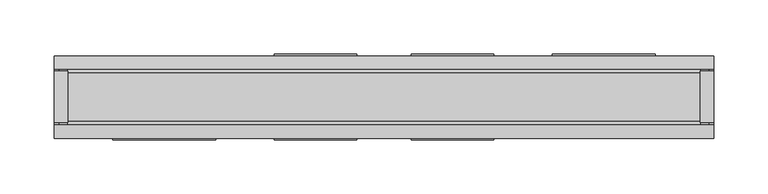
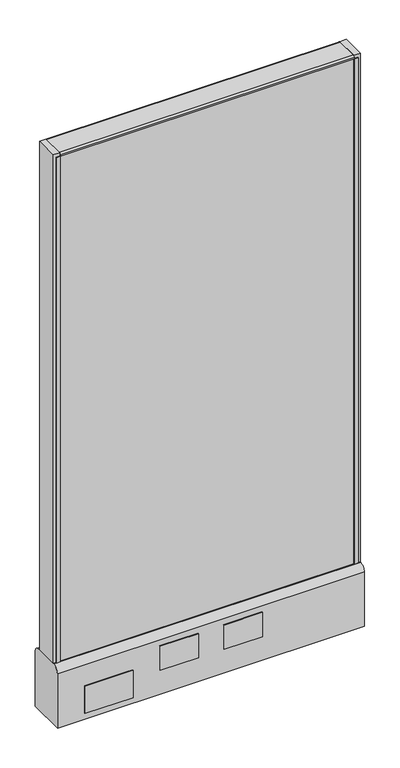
"""IFC4 building model written with IfcOpenShell, lengths in millimetres: furniture geometry."""

from ifc_helpers import new_model, si_unit, point, frame, frame_2d, origin, place, context, project, spatial, polyline, circle_curve, trimmed, segment, composite_curve, outline, extrude, source, transform, mapped, element, save
from ifc_brep_helpers import plane_surface, cylinder_surface, advanced_brep


def furniture_aedcea9c(model_context):
    return source(origin(), model_context, "Body", "SolidModel", [
        extrude(outline(polyline([(-101.6, 39.6875), (-25.4, 39.6875), (-25.4, 38.1), (-101.6, 38.1), (-101.6, 39.6875)])), frame((0.0, 0.0, 60.325), z_axis=(0.0, 0.0, 1.0), x_axis=(1.0, 0.0, 0.0)), (0.0, 0.0, 1.0), 50.8),
        extrude(outline(polyline([(25.4, 39.6875), (101.6, 39.6875), (101.6, 38.1), (25.4, 38.1), (25.4, 39.6875)])), frame((0.0, 0.0, 60.325), z_axis=(0.0, 0.0, 1.0), x_axis=(1.0, 0.0, 0.0)), (0.0, 0.0, 1.0), 50.8),
        extrude(outline(polyline([(-101.6, -38.1), (-25.4, -38.1), (-25.4, -39.6875), (-101.6, -39.6875), (-101.6, -38.1)])), frame((0.0, 0.0, 60.325), z_axis=(0.0, 0.0, 1.0), x_axis=(1.0, 0.0, 0.0)), (0.0, 0.0, 1.0), 50.8),
        extrude(outline(polyline([(25.4, -38.1), (101.6, -38.1), (101.6, -39.6875), (25.4, -39.6875), (25.4, -38.1)])), frame((0.0, 0.0, 60.325), z_axis=(0.0, 0.0, 1.0), x_axis=(1.0, 0.0, 0.0)), (0.0, 0.0, 1.0), 50.8),
        extrude(outline(polyline([(250.825, 38.1), (155.575, 38.1), (155.575, 39.6875), (250.825, 39.6875), (250.825, 38.1)])), frame((0.0, 0.0, 22.225), z_axis=(0.0, 0.0, 1.0), x_axis=(1.0, 0.0, 0.0)), (0.0, 0.0, 1.0), 57.15),
        extrude(outline(polyline([(-155.575, -39.6875), (-250.825, -39.6875), (-250.825, -38.1), (-155.575, -38.1), (-155.575, -39.6875)])), frame((0.0, 0.0, 22.225), z_axis=(0.0, 0.0, 1.0), x_axis=(1.0, 0.0, 0.0)), (0.0, 0.0, 1.0), 57.15),
        advanced_brep(
        [(247.65, 0.0, 0.0), (273.05, 0.0, 0.0), (260.35, 0.0, 0.0), (247.65, 0.0, 4.7625), (273.05, 0.0, 4.7625), (254.0, 0.0, 4.7625), (266.7, 0.0, 4.7625), (254.0, 0.0, 111.125), (266.7, 0.0, 111.125), (260.35, 0.0, 111.125)],
        [
            (0, 1, circle_curve(frame((260.35, 0.0, 0.0), z_axis=(0.0, 0.0, -1.0), x_axis=(1.0, 0.0, 0.0)), 12.7)),
            (1, 2),
            (2, 0),
            (1, 0, circle_curve(frame((260.35, 0.0, 0.0), z_axis=(0.0, 0.0, -1.0), x_axis=(1.0, 0.0, 0.0)), 12.7)),
            (3, 4, circle_curve(frame((260.35, 0.0, 4.7625), z_axis=(0.0, 0.0, -1.0), x_axis=(1.0, 0.0, 0.0)), 12.7)),
            (4, 1),
            (0, 3),
            (4, 3, circle_curve(frame((260.35, 0.0, 4.7625), z_axis=(0.0, 0.0, -1.0), x_axis=(1.0, 0.0, 0.0)), 12.7)),
            (5, 6, circle_curve(frame((260.35, 0.0, 4.7625), z_axis=(0.0, 0.0, -1.0), x_axis=(1.0, 0.0, 0.0)), 6.35)),
            (6, 4),
            (3, 5),
            (6, 5, circle_curve(frame((260.35, 0.0, 4.7625), z_axis=(0.0, 0.0, -1.0), x_axis=(1.0, 0.0, 0.0)), 6.35)),
            (7, 8, circle_curve(frame((260.35, 0.0, 111.125), z_axis=(0.0, 0.0, -1.0), x_axis=(1.0, 0.0, 0.0)), 6.35)),
            (8, 6),
            (5, 7),
            (8, 7, circle_curve(frame((260.35, 0.0, 111.125), z_axis=(0.0, 0.0, -1.0), x_axis=(1.0, 0.0, 0.0)), 6.35)),
            (9, 8),
            (7, 9),
        ],
        [
            plane_surface(frame((260.35, 0.0, 0.0), z_axis=(0.0, 0.0, -1.0), x_axis=(1.0, 0.0, 0.0))),
            cylinder_surface(frame((260.35, 0.0, 114.882153), z_axis=(0.0, 0.0, 1.0), x_axis=(1.0, 0.0, 0.0)), 12.7),
            plane_surface(frame((260.35, 0.0, 4.7625), z_axis=(0.0, 0.0, 1.0), x_axis=(1.0, 0.0, 0.0))),
            cylinder_surface(frame((260.35, 0.0, 114.882153), z_axis=(0.0, 0.0, 1.0), x_axis=(1.0, 0.0, 0.0)), 6.35),
            plane_surface(frame((260.35, 0.0, 111.125), z_axis=(0.0, 0.0, 1.0), x_axis=(1.0, 0.0, 0.0))),
        ],
        [
            (0, [[1, 2, 3]]),
            (0, [[4, -3, -2]]),
            (1, [[5, 6, -1, 7]]),
            (1, [[8, -7, -4, -6]]),
            (2, [[9, 10, -5, 11]]),
            (2, [[12, -11, -8, -10]]),
            (3, [[13, 14, -9, 15]]),
            (3, [[16, -15, -12, -14]]),
            (4, [[17, -13, 18]]),
            (4, [[-18, -16, -17]]),
        ],
    ),
        advanced_brep(
        [(-273.05, 0.0, 4.7625), (-247.65, 0.0, 4.7625), (-247.65, 0.0, 0.0), (-273.05, 0.0, 0.0), (-266.7, 0.0, 4.7625), (-254.0, 0.0, 4.7625), (-266.7, 0.0, 111.125), (-254.0, 0.0, 111.125), (-260.35, 0.0, 111.125), (-260.35, 0.0, 0.0)],
        [
            (0, 1, circle_curve(frame((-260.35, 0.0, 4.7625), z_axis=(0.0, 0.0, -1.0), x_axis=(1.0, 0.0, 0.0)), 12.7)),
            (1, 2),
            (2, 3, circle_curve(frame((-260.35, 0.0, 0.0), z_axis=(0.0, 0.0, 1.0), x_axis=(1.0, 0.0, 0.0)), 12.7)),
            (3, 0),
            (1, 0, circle_curve(frame((-260.35, 0.0, 4.7625), z_axis=(0.0, 0.0, -1.0), x_axis=(1.0, 0.0, 0.0)), 12.7)),
            (3, 2, circle_curve(frame((-260.35, 0.0, 0.0), z_axis=(0.0, 0.0, 1.0), x_axis=(1.0, 0.0, 0.0)), 12.7)),
            (4, 5, circle_curve(frame((-260.35, 0.0, 4.7625), z_axis=(0.0, 0.0, -1.0), x_axis=(1.0, 0.0, 0.0)), 6.35)),
            (5, 1),
            (0, 4),
            (5, 4, circle_curve(frame((-260.35, 0.0, 4.7625), z_axis=(0.0, 0.0, -1.0), x_axis=(1.0, 0.0, 0.0)), 6.35)),
            (6, 7, circle_curve(frame((-260.35, 0.0, 111.125), z_axis=(0.0, 0.0, -1.0), x_axis=(1.0, 0.0, 0.0)), 6.35)),
            (7, 5),
            (4, 6),
            (7, 6, circle_curve(frame((-260.35, 0.0, 111.125), z_axis=(0.0, 0.0, -1.0), x_axis=(1.0, 0.0, 0.0)), 6.35)),
            (8, 7),
            (6, 8),
            (2, 9),
            (9, 3),
        ],
        [
            cylinder_surface(frame((-260.35, 0.0, 123.825), z_axis=(0.0, 0.0, 1.0), x_axis=(1.0, 0.0, 0.0)), 12.7),
            plane_surface(frame((-260.35, 0.0, 4.7625), z_axis=(0.0, 0.0, 1.0), x_axis=(1.0, 0.0, 0.0))),
            cylinder_surface(frame((-260.35, 0.0, 123.825), z_axis=(0.0, 0.0, 1.0), x_axis=(1.0, 0.0, 0.0)), 6.35),
            plane_surface(frame((-260.35, 0.0, 111.125), z_axis=(0.0, 0.0, 1.0), x_axis=(1.0, 0.0, 0.0))),
            plane_surface(frame((-260.35, 0.0, 0.0), z_axis=(0.0, 0.0, -1.0), x_axis=(1.0, 0.0, 0.0))),
        ],
        [
            (0, [[1, 2, 3, 4]]),
            (0, [[5, -4, 6, -2]]),
            (1, [[7, 8, -1, 9]]),
            (1, [[10, -9, -5, -8]]),
            (2, [[11, 12, -7, 13]]),
            (2, [[14, -13, -10, -12]]),
            (3, [[15, -11, 16]]),
            (3, [[-16, -14, -15]]),
            (4, [[-3, 17, 18]]),
            (4, [[-6, -18, -17]]),
        ],
    ),
        extrude(outline(polyline([(-304.8, 23.8125), (-292.1, 23.8125), (-292.1, -23.8125), (-304.8, -23.8125), (-304.8, 23.8125)])), frame((0.0, 0.0, 136.525), z_axis=(0.0, 0.0, 1.0), x_axis=(1.0, 0.0, 0.0)), (0.0, 0.0, 1.0), 1066.8),
        extrude(outline(polyline([(292.1, -23.8125), (292.1, 23.8125), (304.8, 23.8125), (304.8, -23.8125), (292.1, -23.8125)])), frame((0.0, 0.0, 136.525), z_axis=(0.0, 0.0, 1.0), x_axis=(1.0, 0.0, 0.0)), (0.0, 0.0, 1.0), 1066.8),
        extrude(outline(polyline([(-292.1, 25.4), (-292.1, 23.8125), (-300.0375, 23.8125), (-300.0375, 25.4), (-292.1, 25.4)])), frame((0.0, 0.0, 136.525), z_axis=(0.0, 0.0, 1.0), x_axis=(1.0, 0.0, 0.0)), (0.0, 0.0, 1.0), 1060.45),
        extrude(outline(polyline([(-292.1, -25.4), (-300.0375, -25.4), (-300.0375, -23.8125), (-292.1, -23.8125), (-292.1, -25.4)])), frame((0.0, 0.0, 136.525), z_axis=(0.0, 0.0, 1.0), x_axis=(1.0, 0.0, 0.0)), (0.0, 0.0, 1.0), 1060.45),
        extrude(outline(polyline([(300.0375, 23.8125), (292.1, 23.8125), (292.1, 25.4), (300.0375, 25.4), (300.0375, 23.8125)])), frame((0.0, 0.0, 136.525), z_axis=(0.0, 0.0, 1.0), x_axis=(1.0, 0.0, 0.0)), (0.0, 0.0, 1.0), 1060.45),
        extrude(outline(polyline([(292.1, -25.4), (292.1, -23.8125), (300.0375, -23.8125), (300.0375, -25.4), (292.1, -25.4)])), frame((0.0, 0.0, 136.525), z_axis=(0.0, 0.0, 1.0), x_axis=(1.0, 0.0, 0.0)), (0.0, 0.0, 1.0), 1060.45),
        extrude(outline(composite_curve([segment(trimmed(circle_curve(frame_2d((22.225, 1200.15)), 3.175), [point((22.225, 1203.325))], [point((25.4, 1200.15))], False, "CARTESIAN"), True, "CONTINUOUS"), segment(polyline([(25.4, 1200.15), (25.4, 1196.975), (-25.4, 1196.975), (-25.4, 1200.15)]), True, "CONTINUOUS"), segment(trimmed(circle_curve(frame_2d((-22.225, 1200.15)), 3.175), [point((-25.4, 1200.15))], [point((-22.225, 1203.325))], False, "CARTESIAN"), True, "CONTINUOUS"), segment(polyline([(-22.225, 1203.325), (22.225, 1203.325)]), True, "CONTINUOUS")], self_intersect=False)), frame((-292.1, 0.0, 0.0), z_axis=(1.0, 0.0, 0.0), x_axis=(0.0, 1.0, 0.0)), (0.0, 0.0, 1.0), 584.2),
        extrude(outline(composite_curve([segment(trimmed(circle_curve(frame_2d((25.4, 123.825)), 12.7), [point((25.4, 136.525))], [point((38.1, 123.825))], False, "CARTESIAN"), True, "CONTINUOUS"), segment(polyline([(38.1, 123.825), (38.1, 9.525), (-38.1, 9.525), (-38.1, 123.825)]), True, "CONTINUOUS"), segment(trimmed(circle_curve(frame_2d((-25.4, 123.825)), 12.7), [point((-38.1, 123.825))], [point((-25.4, 136.525))], False, "CARTESIAN"), True, "CONTINUOUS"), segment(polyline([(-25.4, 136.525), (25.4, 136.525)]), True, "CONTINUOUS")], self_intersect=False)), frame((-304.8, 0.0, 0.0), z_axis=(1.0, 0.0, 0.0), x_axis=(0.0, 1.0, 0.0)), (0.0, 0.0, 1.0), 609.6),
        extrude(outline(polyline([(292.1, 23.8125), (292.1, -23.8125), (-292.1, -23.8125), (-292.1, 23.8125), (292.1, 23.8125)])), frame((0.0, 0.0, 136.525), z_axis=(0.0, 0.0, 1.0), x_axis=(1.0, 0.0, 0.0)), (0.0, 0.0, 1.0), 1060.45),
    ])


if __name__ == "__main__":
    model = new_model("IFC4")
    model_context = context("Model", 3, world=origin())
    ifc_project = project(units=[si_unit("LENGTHUNIT", "METRE", prefix="MILLI")], contexts=[model_context])
    site = spatial("IfcSite", under=ifc_project)
    building = spatial("IfcBuilding", under=site)
    placement = place(None, origin())
    furniture_shape = furniture_aedcea9c(model_context)
    element("IfcFurniture", 1, ObjectType="HermanMiller_ActionOffice_A1110_Hard-SurfacedPanelStandardBase : 47\"H x 24\"W-G", at=placement, inside=building, context=model_context, shape_type="MappedRepresentation", body=[
        mapped(furniture_shape, transform((0.0, 0.0, 0.0), x_axis=(1.0, 0.0, 0.0), y_axis=(0.0, 1.0, 0.0), z_axis=(0.0, 0.0, 1.0))),
    ])
    save(model, "model.ifc")
